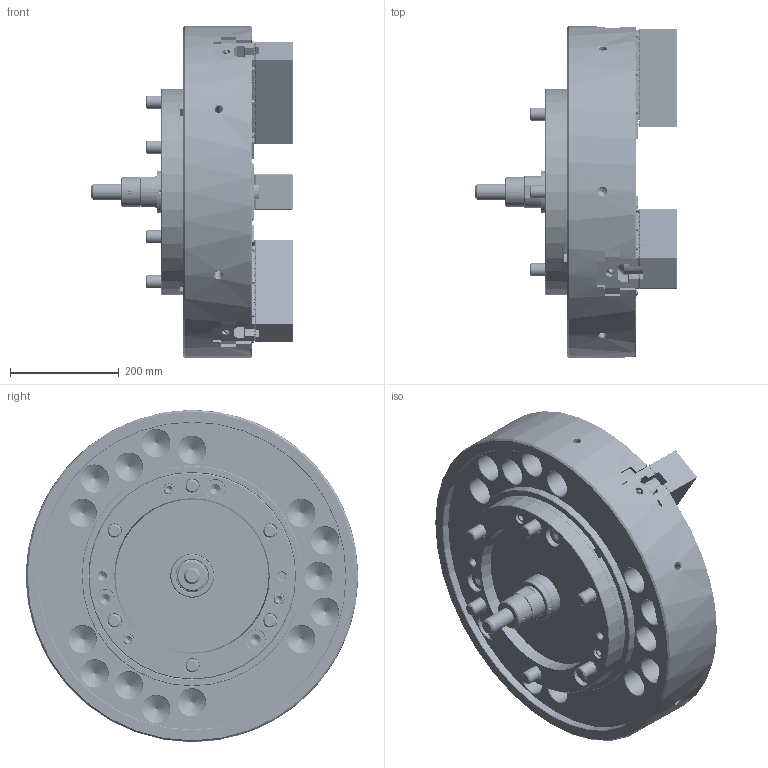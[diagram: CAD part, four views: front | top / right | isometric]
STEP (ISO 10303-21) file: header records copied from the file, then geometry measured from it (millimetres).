
FILE_DESCRIPTION (( 'STEP AP214' ), '1' );
FILE_NAME ('DT1_NV24C15_OUTSIDE_VIEW_HCL.STEP', '2026-03-24T05:01:48', ( '' ), ( '' ), 'SwSTEP 2.0', 'SolidWorks 2022', '' );
FILE_SCHEMA (( 'AUTOMOTIVE_DESIGN' ));
Length unit declared in the file: millimetre
Products named in the file (18): DT1_NV24C15_OUTSIDE_VIEW_HCL; DT1_NV24C15_CAP^DT1_NV24C1500; DT1_NV24C15_COVER^DT1_NV24C1500; DT1_NV24C15_ORING^DT1_NV24C1500; DT1_NV24C15_DRAWSCREW^DT1_NV24C1500; DT1_NV24C15_M12x55^DT1_NV24C1500; DT1_NV24C15_BP^DT1_NV24C1500; DT1_NV24C15_COVERFOOTER^DT1_NV24C1500; DT1_NV24C15_S39^DT1_NV24C1500_円筒用; Copy of 61P321208^DT1_NV24C1500; DT1_NV24C15_M20x60^DT1_NV24C1500; DT1_NV24C15_BASE^DT1_NV24C1500; DT1_NV24C15_M6x12^DT1_NV24C1500; DT1_NV24C15_DN^DT1_NV24C1500; DT1_NV24C15_P80^DT1_NV24C1500_円筒用; DT1_NV24C15_TNUT^DT1_NV24C1500; DT1_NV24C15_M24x160^DT1_NV24C1500; DT1_NV24C15_SOFTJAW^DT1_NV24C1500
Assembly tree (48 placements, depth 2):
  DT1_NV24C15_OUTSIDE_VIEW_HCL
    DT1_NV24C15_SOFTJAW^DT1_NV24C1500  x3
    DT1_NV24C15_TNUT^DT1_NV24C1500  x6
    DT1_NV24C15_COVER^DT1_NV24C1500
    DT1_NV24C15_DRAWSCREW^DT1_NV24C1500
    Copy of 61P321208^DT1_NV24C1500
    DT1_NV24C15_COVERFOOTER^DT1_NV24C1500
    DT1_NV24C15_M6x12^DT1_NV24C1500  x6
    DT1_NV24C15_M12x55^DT1_NV24C1500  x3
    DT1_NV24C15_M20x60^DT1_NV24C1500  x6
    DT1_NV24C15_M24x160^DT1_NV24C1500  x6
    DT1_NV24C15_S39^DT1_NV24C1500_円筒用
    DT1_NV24C15_P80^DT1_NV24C1500_円筒用
    DT1_NV24C15_CAP^DT1_NV24C1500  x6
    DT1_NV24C15_ORING^DT1_NV24C1500  x3
    DT1_NV24C15_DN^DT1_NV24C1500
    DT1_NV24C15_BP^DT1_NV24C1500
    DT1_NV24C15_BASE^DT1_NV24C1500
Bounding box: 369.5 x 610 x 610 mm (x, y, z)
Volume: 37606510.8 mm3; surface area: 2404793.9 mm2
Topology: 48 solids, 102 shells, 9677 faces, 26867 edges, 17495 vertices
Faces by surface type: plane 5638, cylinder 1924, bspline 1005, cone 962, torus 142, sphere 6
Entity records: 275202 total; most frequent: CARTESIAN_POINT 87621, ORIENTED_EDGE 41918, DIRECTION 33752, EDGE_CURVE 20959, LINE 14600, VECTOR 14600, VERTEX_POINT 13749, AXIS2_PLACEMENT_3D 9576
